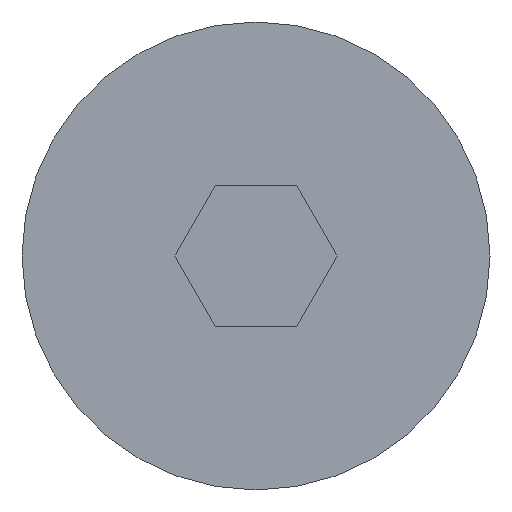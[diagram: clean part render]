
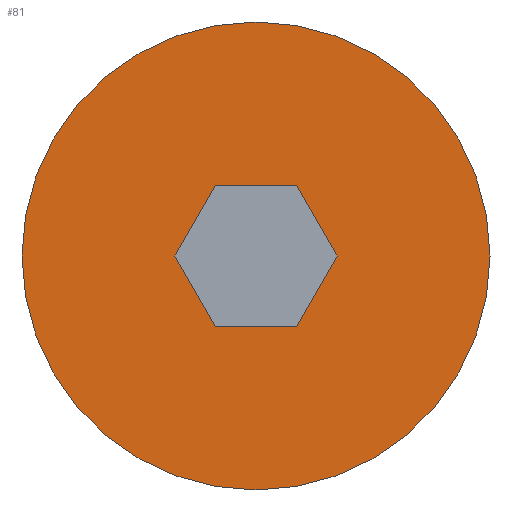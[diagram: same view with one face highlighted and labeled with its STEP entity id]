
A CAD part, left-side view. The second image highlights one B-rep face of the part: STEP entity #81.
In plain terms, the highlighted free-form (B-spline) face has degree [1, 1] with [3, 4] control points.
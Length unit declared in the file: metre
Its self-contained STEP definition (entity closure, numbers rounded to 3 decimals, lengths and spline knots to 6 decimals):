
#81 = ADVANCED_FACE( '', ( #101, #102 ), #103, .T. );
#101 = FACE_BOUND( '', #158, .T. );
#102 = FACE_OUTER_BOUND( '', #159, .T. );
#103 = B_SPLINE_SURFACE_WITH_KNOTS( '', 1, 1, ( ( #160, #161, #162, #163 ), ( #164, #165, #166, #167 ), ( #168, #169, #170, #171 ) ), .UNSPECIFIED., .F., .F., .F., ( 2, 1, 2 ), ( 2, 1, 1, 2 ), ( -0.409091, 0., 1. ), ( -0.287296, 0., 1., 1.287296 ), .UNSPECIFIED. );
#158 = EDGE_LOOP( '', ( #297, #298, #299, #300, #301, #302 ) );
#159 = EDGE_LOOP( '', ( #303 ) );
#160 = CARTESIAN_POINT( '', ( 12.86192, 0.07044, 9.598321 ) );
#161 = CARTESIAN_POINT( '', ( 12.86192, 0.07044, 9.59516 ) );
#162 = CARTESIAN_POINT( '', ( 12.86192, 0.07044, 9.58416 ) );
#163 = CARTESIAN_POINT( '', ( 12.86192, 0.07044, 9.581 ) );
#164 = CARTESIAN_POINT( '', ( 12.86192, 0.07494, 9.598321 ) );
#165 = CARTESIAN_POINT( '', ( 12.86192, 0.07494, 9.59516 ) );
#166 = CARTESIAN_POINT( '', ( 12.86192, 0.07494, 9.58416 ) );
#167 = CARTESIAN_POINT( '', ( 12.86192, 0.07494, 9.581 ) );
#168 = CARTESIAN_POINT( '', ( 12.86192, 0.08594, 9.598321 ) );
#169 = CARTESIAN_POINT( '', ( 12.86192, 0.08594, 9.59516 ) );
#170 = CARTESIAN_POINT( '', ( 12.86192, 0.08594, 9.58416 ) );
#171 = CARTESIAN_POINT( '', ( 12.86192, 0.08594, 9.581 ) );
#297 = ORIENTED_EDGE( '', *, *, #333, .F. );
#298 = ORIENTED_EDGE( '', *, *, #336, .T. );
#299 = ORIENTED_EDGE( '', *, *, #337, .F. );
#300 = ORIENTED_EDGE( '', *, *, #330, .F. );
#301 = ORIENTED_EDGE( '', *, *, #328, .F. );
#302 = ORIENTED_EDGE( '', *, *, #335, .T. );
#303 = ORIENTED_EDGE( '', *, *, #338, .T. );
#328 = EDGE_CURVE( '', #357, #359, #360, .T. );
#330 = EDGE_CURVE( '', #359, #362, #363, .T. );
#333 = EDGE_CURVE( '', #365, #367, #368, .T. );
#335 = EDGE_CURVE( '', #357, #367, #370, .T. );
#336 = EDGE_CURVE( '', #365, #371, #372, .T. );
#337 = EDGE_CURVE( '', #362, #371, #373, .T. );
#338 = EDGE_CURVE( '', #374, #374, #375, .F. );
#357 = VERTEX_POINT( '', #405 );
#359 = VERTEX_POINT( '', #408 );
#360 = LINE( '', #409, #410 );
#362 = VERTEX_POINT( '', #413 );
#363 = LINE( '', #414, #415 );
#365 = VERTEX_POINT( '', #418 );
#367 = VERTEX_POINT( '', #421 );
#368 = LINE( '', #422, #423 );
#370 = B_SPLINE_CURVE_WITH_KNOTS( '', 3, ( #426, #427, #428, #429 ), .UNSPECIFIED., .F., .F., ( 4, 4 ), ( 0., 1. ), .UNSPECIFIED. );
#371 = VERTEX_POINT( '', #430 );
#372 = LINE( '', #431, #432 );
#373 = LINE( '', #433, #434 );
#374 = VERTEX_POINT( '', #435 );
#375 = CIRCLE( '', #436, 0.005 );
#405 = CARTESIAN_POINT( '', ( 12.86192, 0.081306, 9.58816 ) );
#408 = CARTESIAN_POINT( '', ( 12.86192, 0.079574, 9.58816 ) );
#409 = CARTESIAN_POINT( '', ( 12.86192, 0.08044, 9.58816 ) );
#410 = VECTOR( '', #454, 1. );
#413 = CARTESIAN_POINT( '', ( 12.86192, 0.078708, 9.58966 ) );
#414 = CARTESIAN_POINT( '', ( 12.86192, 0.079141, 9.58891 ) );
#415 = VECTOR( '', #456, 1. );
#418 = CARTESIAN_POINT( '', ( 12.86192, 0.081306, 9.59116 ) );
#421 = CARTESIAN_POINT( '', ( 12.86192, 0.082172, 9.58966 ) );
#422 = CARTESIAN_POINT( '', ( 12.86192, 0.081739, 9.59041 ) );
#423 = VECTOR( '', #459, 1. );
#426 = CARTESIAN_POINT( '', ( 12.86192, 0.081306, 9.58816 ) );
#427 = CARTESIAN_POINT( '', ( 12.86192, 0.081595, 9.58866 ) );
#428 = CARTESIAN_POINT( '', ( 12.86192, 0.081883, 9.58916 ) );
#429 = CARTESIAN_POINT( '', ( 12.86192, 0.082172, 9.58966 ) );
#430 = CARTESIAN_POINT( '', ( 12.86192, 0.079574, 9.59116 ) );
#431 = CARTESIAN_POINT( '', ( 12.86192, 0.07819, 9.59116 ) );
#432 = VECTOR( '', #461, 1. );
#433 = CARTESIAN_POINT( '', ( 12.86192, 0.079141, 9.59041 ) );
#434 = VECTOR( '', #462, 1. );
#435 = CARTESIAN_POINT( '', ( 12.86192, 0.08544, 9.58966 ) );
#436 = AXIS2_PLACEMENT_3D( '', #463, #464, #465 );
#454 = DIRECTION( '', ( 0., -1., 0. ) );
#456 = DIRECTION( '', ( 0., -0.5, 0.866 ) );
#459 = DIRECTION( '', ( 0., 0.5, -0.866 ) );
#461 = DIRECTION( '', ( 0., -1., 0. ) );
#462 = DIRECTION( '', ( 0., 0.5, 0.866 ) );
#463 = CARTESIAN_POINT( '', ( 12.86192, 0.08044, 9.58966 ) );
#464 = DIRECTION( '', ( 1., 0., 0. ) );
#465 = DIRECTION( '', ( 0., 0., -1. ) );
